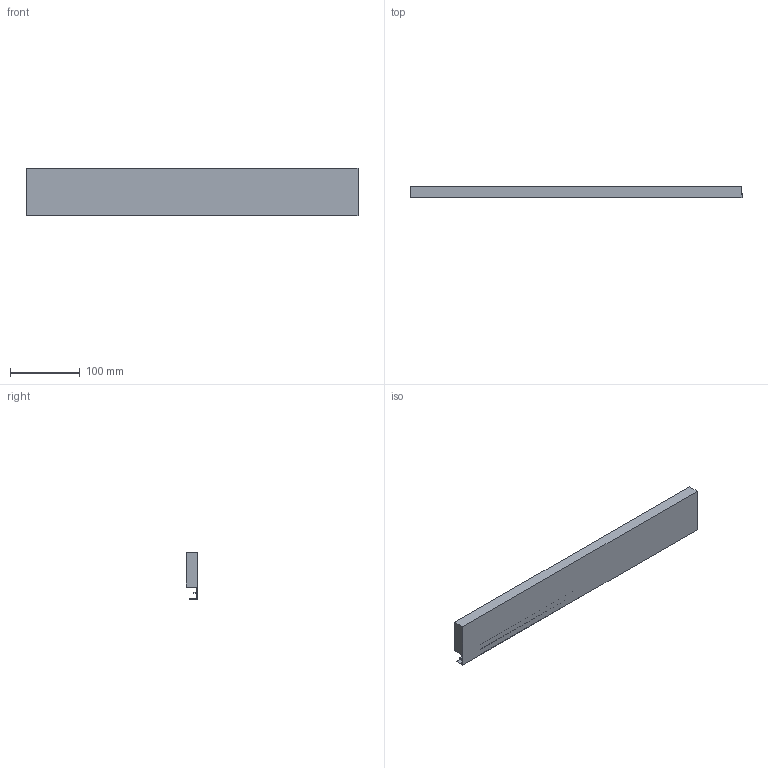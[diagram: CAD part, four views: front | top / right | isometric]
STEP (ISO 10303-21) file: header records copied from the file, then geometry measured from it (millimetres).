
FILE_DESCRIPTION (( 'STEP AP214' ), '1' );
FILE_NAME ('Innenschub-Blendenprofil_KAB600_S16.step', '2010-09-23T12:26:49', ( 'grass' ), ( '' ), 'SwSTEP 2.0', 'SolidWorks 2010', '' );
FILE_SCHEMA (( 'AUTOMOTIVE_DESIGN' ));
Length unit declared in the file: millimetre
Products named in the file (1): Innenschub-Blendenprofil_KAB600_S16
Bounding box: 477 x 15.9 x 67.6 mm (x, y, z)
Volume: 395495.2 mm3; surface area: 95280.4 mm2
Topology: 1 solids, 1 shells, 17 faces, 42 edges, 28 vertices
Faces by surface type: plane 15, cylinder 2
Entity records: 534 total; most frequent: CARTESIAN_POINT 88, ORIENTED_EDGE 84, DIRECTION 82, EDGE_CURVE 42, LINE 38, VECTOR 38, VERTEX_POINT 28, AXIS2_PLACEMENT_3D 22
